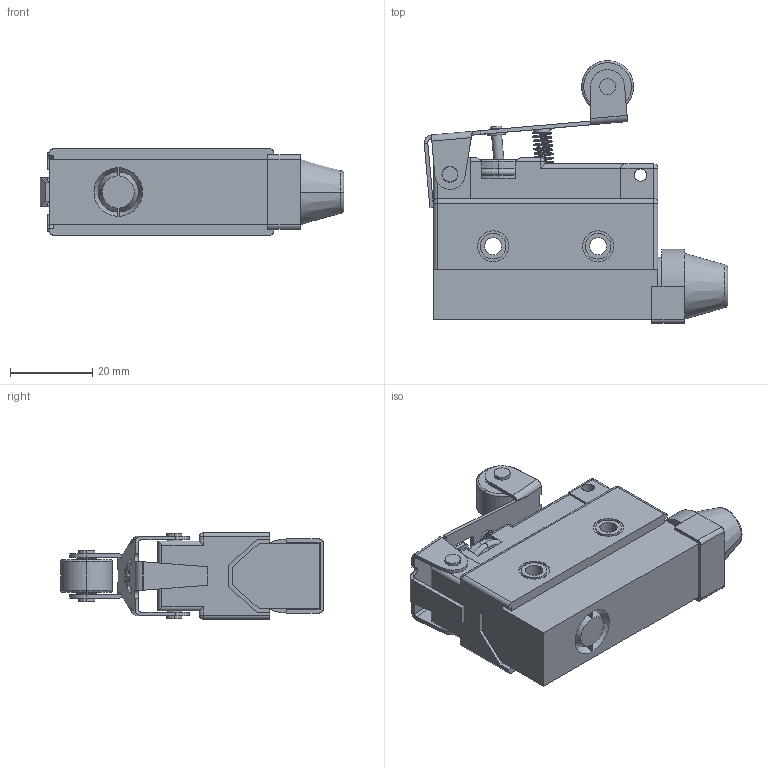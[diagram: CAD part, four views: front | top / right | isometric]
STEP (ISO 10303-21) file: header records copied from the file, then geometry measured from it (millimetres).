
FILE_DESCRIPTION (( 'STEP AP203' ), '1' );
FILE_NAME ('FM7141.STEP', '2018-03-23T13:23:02', ( '' ), ( '' ), 'SwSTEP 2.0', 'SolidWorks 2012', '' );
FILE_SCHEMA (( 'CONFIG_CONTROL_DESIGN' ));
Length unit declared in the file: millimetre
Products named in the file (1): FM7141
Bounding box: 73.76 x 63.8 x 21 mm (x, y, z)
Volume: 42201.3 mm3; surface area: 13654.5 mm2
Topology: 2 solids, 2 shells, 329 faces, 814 edges, 510 vertices
Faces by surface type: plane 145, cylinder 130, torus 30, cone 10, sphere 8, bspline 6
Entity records: 17156 total; most frequent: CARTESIAN_POINT 9186, DIRECTION 1709, ORIENTED_EDGE 1604, EDGE_CURVE 802, AXIS2_PLACEMENT_3D 633, VERTEX_POINT 510, VECTOR 443, LINE 443
